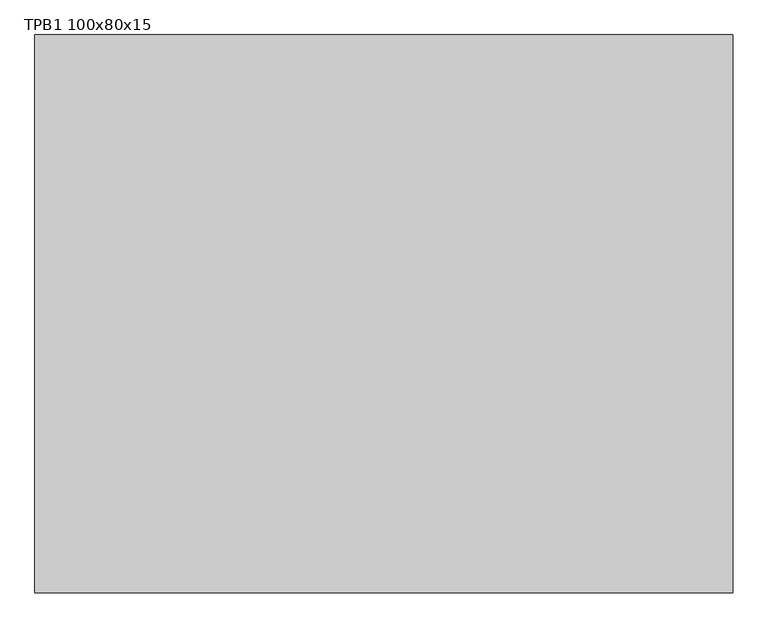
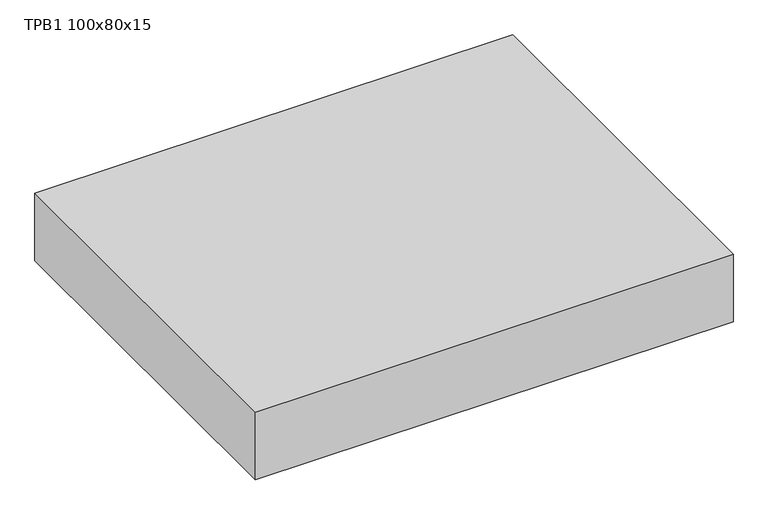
"""IFC4 building model written with IfcOpenShell, lengths in millimetres: proxy geometry, TABLERO ELECTRICO DE SUPERFICIE : TPB1 100x80x15."""

from ifc_helpers import new_model, si_unit, origin, origin_with_axes, place, context, project, spatial, polyline, outline, extrude, source, transform, mapped, element, save


def tpb1_100x80x15_b3fe0ed7(model_context):
    return source(origin(), model_context, "Body", "SweptSolid", [
        extrude(outline(polyline([(500.0, 0.0), (500.0, -800.0), (-500.0, -800.0), (-500.0, 0.0), (500.0, 0.0)])), origin_with_axes(), (0.0, 0.0, 1.0), 150.0),
    ])


if __name__ == "__main__":
    model = new_model("IFC4")
    model_context = context("Model", 3, world=origin())
    ifc_project = project(units=[si_unit("LENGTHUNIT", "METRE", prefix="MILLI")], contexts=[model_context])
    site = spatial("IfcSite", under=ifc_project)
    building = spatial("IfcBuilding", under=site)
    placement = place(None, origin())
    tpb1_100x80x15_shape = tpb1_100x80x15_b3fe0ed7(model_context)
    element("IfcBuildingElementProxy", 1, Name="TABLERO ELECTRICO DE SUPERFICIE : TPB1 100x80x15", ObjectType="TABLERO ELECTRICO DE SUPERFICIE : TPB1 100x80x15", at=placement, inside=building, context=model_context, shape_type="MappedRepresentation", body=[
        mapped(tpb1_100x80x15_shape, transform((0.0, 0.0, 0.0), x_axis=(1.0, 0.0, 0.0), y_axis=(0.0, 1.0, 0.0), z_axis=(0.0, 0.0, 1.0))),
    ])
    save(model, "model.ifc")
